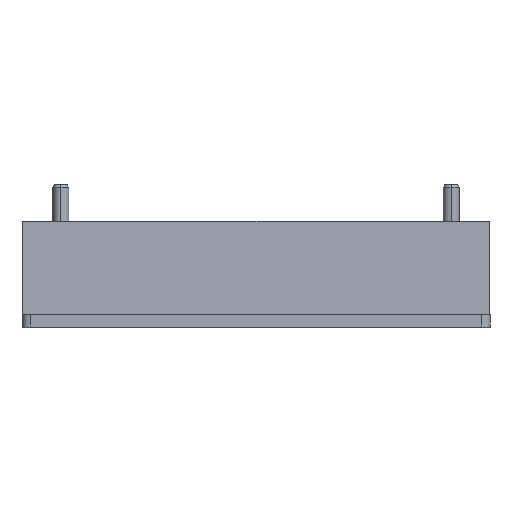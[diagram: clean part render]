
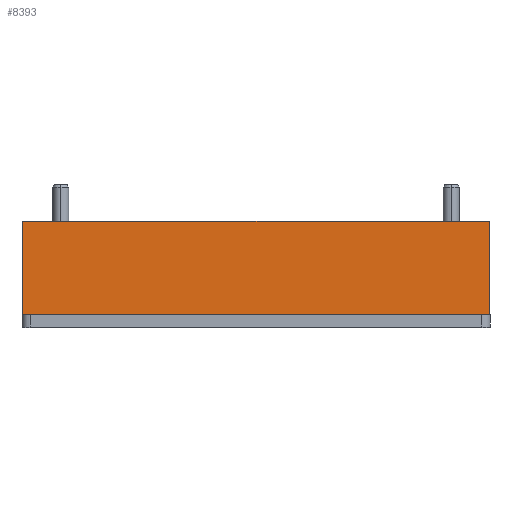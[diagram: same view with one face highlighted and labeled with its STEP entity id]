
A CAD part, top view. The second image highlights one B-rep face of the part: STEP entity #8393.
In plain terms, the highlighted planar face has unit normal (0, 0.009, 1) as drawn and (0, -0.009, -1) by its records, which use the part's own axes.
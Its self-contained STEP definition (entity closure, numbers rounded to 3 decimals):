
#5944 = CARTESIAN_POINT ( 'NONE',  ( -28.95, 0., -30.5 ) ) ;
#5945 = LINE ( 'NONE', #5944, #6067 ) ;
#5948 = DIRECTION ( 'NONE',  ( 0., 1., -0.009 ) ) ;
#5949 = DIRECTION ( 'NONE',  ( 0., -0.009, -1. ) ) ;
#5951 = AXIS2_PLACEMENT_3D ( 'NONE', #5957, #5949, #5948 ) ;
#5957 = CARTESIAN_POINT ( 'NONE',  ( -28.95, 0., -30.5 ) ) ;
#5959 = PLANE ( 'NONE',  #5951 ) ;
#5960 = FACE_OUTER_BOUND ( 'NONE', #8397, .T. ) ;
#6063 = CARTESIAN_POINT ( 'NONE',  ( 28.95, 0., -30.5 ) ) ;
#6066 = DIRECTION ( 'NONE',  ( -1., 0., 0. ) ) ;
#6067 = VECTOR ( 'NONE', #6066, 1000. ) ;
#6247 = DIRECTION ( 'NONE',  ( -1., 0., 0. ) ) ;
#6249 = VECTOR ( 'NONE', #6247, 1000. ) ;
#6251 = CARTESIAN_POINT ( 'NONE',  ( -28.95, -11.6, -30.399 ) ) ;
#6252 = LINE ( 'NONE', #6251, #6249 ) ;
#6256 = CARTESIAN_POINT ( 'NONE',  ( 28.849, -11.6, -30.399 ) ) ;
#6258 = DIRECTION ( 'NONE',  ( 0.009, 1., -0.009 ) ) ;
#6260 = VECTOR ( 'NONE', #6258, 1000. ) ;
#6262 = CARTESIAN_POINT ( 'NONE',  ( 28.95, 0., -30.5 ) ) ;
#6271 = LINE ( 'NONE', #6262, #6260 ) ;
#6328 = CARTESIAN_POINT ( 'NONE',  ( -28.849, -11.6, -30.399 ) ) ;
#6330 = DIRECTION ( 'NONE',  ( -0.009, 1., -0.009 ) ) ;
#6332 = VECTOR ( 'NONE', #6330, 1000. ) ;
#6334 = CARTESIAN_POINT ( 'NONE',  ( -28.95, 0., -30.5 ) ) ;
#6335 = LINE ( 'NONE', #6334, #6332 ) ;
#6341 = CARTESIAN_POINT ( 'NONE',  ( -28.95, 0., -30.5 ) ) ;
#8393 = ADVANCED_FACE ( 'NONE', ( #5960 ), #5959, .T. ) ;
#8397 = EDGE_LOOP ( 'NONE', ( #8399, #8522, #8529, #8533 ) ) ;
#8399 = ORIENTED_EDGE ( 'NONE', *, *, #8401, .F. ) ;
#8401 = EDGE_CURVE ( 'NONE', #8403, #8556, #5945, .T. ) ;
#8403 = VERTEX_POINT ( 'NONE', #6063 ) ;
#8522 = ORIENTED_EDGE ( 'NONE', *, *, #8524, .F. ) ;
#8524 = EDGE_CURVE ( 'NONE', #8527, #8403, #6271, .T. ) ;
#8527 = VERTEX_POINT ( 'NONE', #6256 ) ;
#8529 = ORIENTED_EDGE ( 'NONE', *, *, #8531, .T. ) ;
#8531 = EDGE_CURVE ( 'NONE', #8527, #8564, #6252, .T. ) ;
#8533 = ORIENTED_EDGE ( 'NONE', *, *, #8562, .T. ) ;
#8556 = VERTEX_POINT ( 'NONE', #6341 ) ;
#8562 = EDGE_CURVE ( 'NONE', #8564, #8556, #6335, .T. ) ;
#8564 = VERTEX_POINT ( 'NONE', #6328 ) ;
